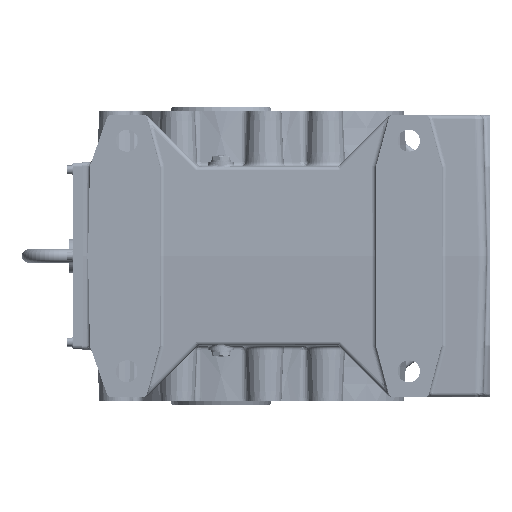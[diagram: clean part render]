
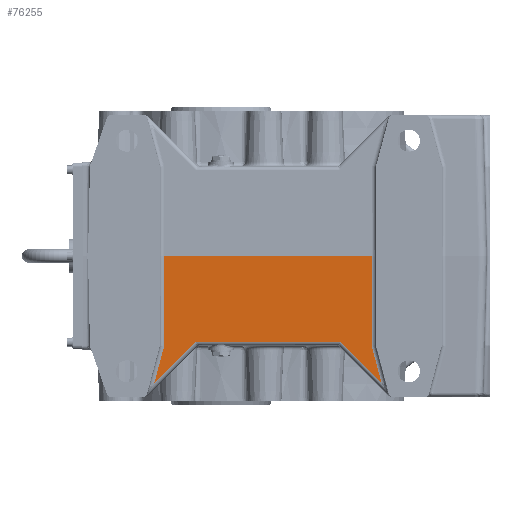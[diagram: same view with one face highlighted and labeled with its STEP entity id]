
A CAD part, left-side view. The second image highlights one B-rep face of the part: STEP entity #76255.
In plain terms, the highlighted planar face has unit normal (-1, 0, -0.026).
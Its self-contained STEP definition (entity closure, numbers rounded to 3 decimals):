
#51864=CARTESIAN_POINT('',(-192.128,-139.571,-100.131));
#51865=VERTEX_POINT('',#51864);
#51873=CARTESIAN_POINT('',(-192.128,29.571,-100.131));
#51874=VERTEX_POINT('',#51873);
#51875=CARTESIAN_POINT('',(-192.128,-139.571,-100.131));
#51876=DIRECTION('',(0.0,1.0,0.0));
#51877=VECTOR('',#51876,169.142);
#51878=LINE('',#51875,#51877);
#51879=EDGE_CURVE('',#51865,#51874,#51878,.T.);
#58259=CARTESIAN_POINT('',(-191.986,66.5,-105.524));
#58260=VERTEX_POINT('',#58259);
#58285=CARTESIAN_POINT('',(-194.75,66.5,0.0));
#58286=VERTEX_POINT('',#58285);
#58287=CARTESIAN_POINT('',(-191.986,66.5,-105.524));
#58288=DIRECTION('',(-0.026,0.0,1.));
#58289=VECTOR('',#58288,105.561);
#58290=LINE('',#58287,#58289);
#58291=EDGE_CURVE('',#58260,#58286,#58290,.T.);
#58318=CARTESIAN_POINT('',(-190.86,77.967,-148.527));
#58319=VERTEX_POINT('',#58318);
#58327=CARTESIAN_POINT('',(-190.86,77.967,-148.527));
#58328=DIRECTION('',(-0.025,-0.258,0.966));
#58329=VECTOR('',#58328,44.52);
#58330=LINE('',#58327,#58329);
#58331=EDGE_CURVE('',#58319,#58260,#58330,.T.);
#58785=CARTESIAN_POINT('',(-191.986,-176.5,-105.524));
#58786=VERTEX_POINT('',#58785);
#58880=CARTESIAN_POINT('',(-190.86,-187.967,-148.527));
#58881=VERTEX_POINT('',#58880);
#58882=CARTESIAN_POINT('',(-191.986,-176.5,-105.524));
#58883=DIRECTION('',(0.025,-0.258,-0.966));
#58884=VECTOR('',#58883,44.52);
#58885=LINE('',#58882,#58884);
#58886=EDGE_CURVE('',#58786,#58881,#58885,.T.);
#60328=CARTESIAN_POINT('',(-194.75,-176.5,0.0));
#60329=VERTEX_POINT('',#60328);
#60337=CARTESIAN_POINT('',(-194.75,-176.5,0.));
#60338=DIRECTION('',(0.026,0.0,-1.));
#60339=VECTOR('',#60338,105.561);
#60340=LINE('',#60337,#60339);
#60341=EDGE_CURVE('',#60329,#58786,#60340,.T.);
#62298=CARTESIAN_POINT('',(-190.86,-187.967,-148.527));
#62299=DIRECTION('',(-0.019,0.707,0.707));
#62300=VECTOR('',#62299,68.455);
#62301=LINE('',#62298,#62300);
#62302=EDGE_CURVE('',#58881,#51865,#62301,.T.);
#62475=CARTESIAN_POINT('',(-192.128,29.571,-100.131));
#62476=DIRECTION('',(0.019,0.707,-0.707));
#62477=VECTOR('',#62476,68.455);
#62478=LINE('',#62475,#62477);
#62479=EDGE_CURVE('',#51874,#58319,#62478,.T.);
#76209=CARTESIAN_POINT('',(-194.75,66.5,0.0));
#76210=DIRECTION('',(0.0,-1.0,0.0));
#76211=VECTOR('',#76210,243.0);
#76212=LINE('',#76209,#76211);
#76213=EDGE_CURVE('',#58286,#60329,#76212,.T.);
#76240=CARTESIAN_POINT('',(-194.749,-307.0,-0.036));
#76241=DIRECTION('',(1.,0.,0.026));
#76242=DIRECTION('',(0.026,0.,-1.));
#76243=AXIS2_PLACEMENT_3D('',#76240,#76241,#76242);
#76244=PLANE('',#76243);
#76245=ORIENTED_EDGE('',*,*,#58331,.F.);
#76246=ORIENTED_EDGE('',*,*,#62479,.F.);
#76247=ORIENTED_EDGE('',*,*,#51879,.F.);
#76248=ORIENTED_EDGE('',*,*,#62302,.F.);
#76249=ORIENTED_EDGE('',*,*,#58886,.F.);
#76250=ORIENTED_EDGE('',*,*,#60341,.F.);
#76251=ORIENTED_EDGE('',*,*,#76213,.F.);
#76252=ORIENTED_EDGE('',*,*,#58291,.F.);
#76253=EDGE_LOOP('',(#76245,#76246,#76247,#76248,#76249,#76250,#76251,#76252));
#76254=FACE_OUTER_BOUND('',#76253,.T.);
#76255=ADVANCED_FACE('',(#76254),#76244,.F.);
